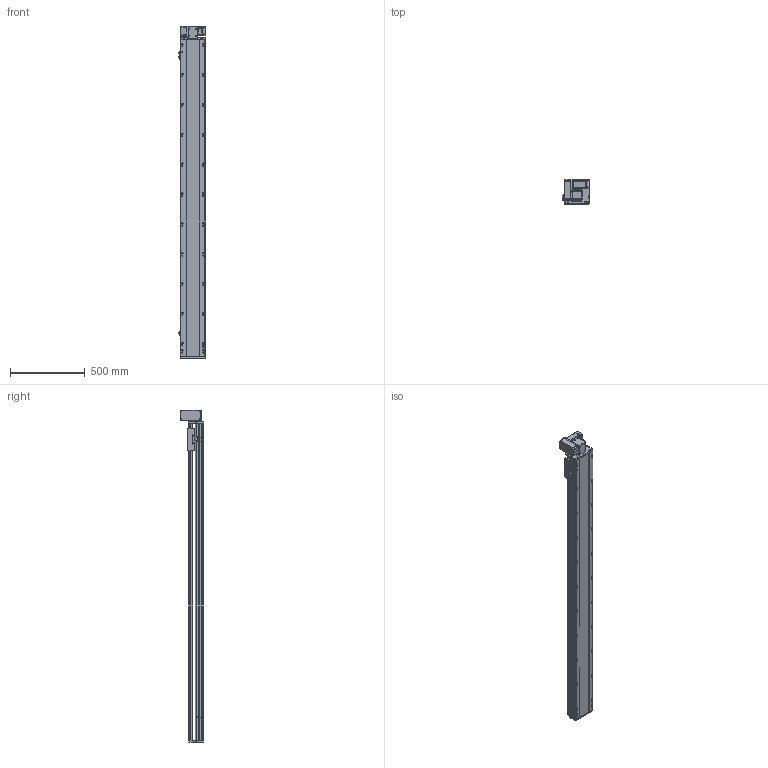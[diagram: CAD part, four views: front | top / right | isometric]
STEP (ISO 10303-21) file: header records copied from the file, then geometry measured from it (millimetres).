
FILE_DESCRIPTION (( 'STEP AP214' ), '1' );
FILE_NAME ('RTB17S-XX-1850-LW-M40-C4.STEP', '2025-12-11T07:11:32', ( '' ), ( '' ), 'SwSTEP 2.0', 'SolidWorks 2018', '' );
FILE_SCHEMA (( 'AUTOMOTIVE_DESIGN' ));
Length unit declared in the file: millimetre
Products named in the file (14): RTB14-L-018P^RTB17S-LW-々湍釱蚾饜-400W_RTB17S-XX-XX-LW-M40-C4; RTB17S-L-014-T20--々湍釱^RTB17S-LW-々湍釱蚾饜-400W_RTB17S-XX-XX-LW-M40-C4; RTB14-L-005P--轴承塑胶压盖^RTB17S-LW-皮带座装配-400W_RTB17S-XX-XX-LW-M40-C4; RTB14-L-017P^RTB17S-LW-々湍釱蚾饜-400W_RTB17S-XX-XX-LW-M40-C4; RTB17S-L-004佪裝蹟譫蟀諉釱^RTB17S-XX-XX-LW-M40-C4; RTH13-BL-012覜茼え俋离^RTB17S-XX-XX-LW-M40-C4; OMRON EE-SX672 传感器^RTB17S-XX-XX-LW-M40-C4; RTB17S-LW-々湍釱蚾饜-400W^RTB17S-XX-XX-LW-M40-C4; RTB14-L-008-M20--萇儂啣^RTB17S-LW-々湍釱蚾饜-400W_RTB17S-XX-XX-LW-M40-C4; 400W侜督萇儂^RTB17S-XX-XX-LW-M40-C4; RTB17S-L-001耜醱啣^RTB17S-XX-XX-LW-M40-C4; RTB17-R-011菁釱^RTB17S-XX-XX-LW-M40-C4; RTB17S-XX-1850-LW-M40-C4; RTB17S-L-007奻裔^RTB17S-XX-XX-LW-M40-C4
Assembly tree (16 placements, depth 3):
  RTB17S-XX-1850-LW-M40-C4
    RTB17-R-011菁釱^RTB17S-XX-XX-LW-M40-C4
    RTB17S-L-007奻裔^RTB17S-XX-XX-LW-M40-C4
    OMRON EE-SX672 传感器^RTB17S-XX-XX-LW-M40-C4  x3
    RTB17S-L-001耜醱啣^RTB17S-XX-XX-LW-M40-C4
    400W侜督萇儂^RTB17S-XX-XX-LW-M40-C4
    RTB17S-L-004佪裝蹟譫蟀諉釱^RTB17S-XX-XX-LW-M40-C4
    RTH13-BL-012覜茼え俋离^RTB17S-XX-XX-LW-M40-C4
    RTB17S-LW-々湍釱蚾饜-400W^RTB17S-XX-XX-LW-M40-C4
      RTB17S-L-014-T20--々湍釱^RTB17S-LW-々湍釱蚾饜-400W_RTB17S-XX-XX-LW-M40-C4
      RTB14-L-005P--轴承塑胶压盖^RTB17S-LW-皮带座装配-400W_RTB17S-XX-XX-LW-M40-C4
      RTB14-L-008-M20--萇儂啣^RTB17S-LW-々湍釱蚾饜-400W_RTB17S-XX-XX-LW-M40-C4
      RTB14-L-017P^RTB17S-LW-々湍釱蚾饜-400W_RTB17S-XX-XX-LW-M40-C4  x2
      RTB14-L-018P^RTB17S-LW-々湍釱蚾饜-400W_RTB17S-XX-XX-LW-M40-C4
Bounding box: 186 x 160.5 x 2222.5 mm (x, y, z)
Volume: 19300792.9 mm3; surface area: 2255761.1 mm2
Topology: 15 solids, 15 shells, 2285 faces, 6357 edges, 4149 vertices
Faces by surface type: plane 1078, cylinder 759, bspline 301, cone 139, torus 8
Entity records: 66473 total; most frequent: CARTESIAN_POINT 18762, ORIENTED_EDGE 9558, DIRECTION 8846, EDGE_CURVE 4779, VERTEX_POINT 3137, AXIS2_PLACEMENT_3D 3067, VECTOR 2712, LINE 2712
